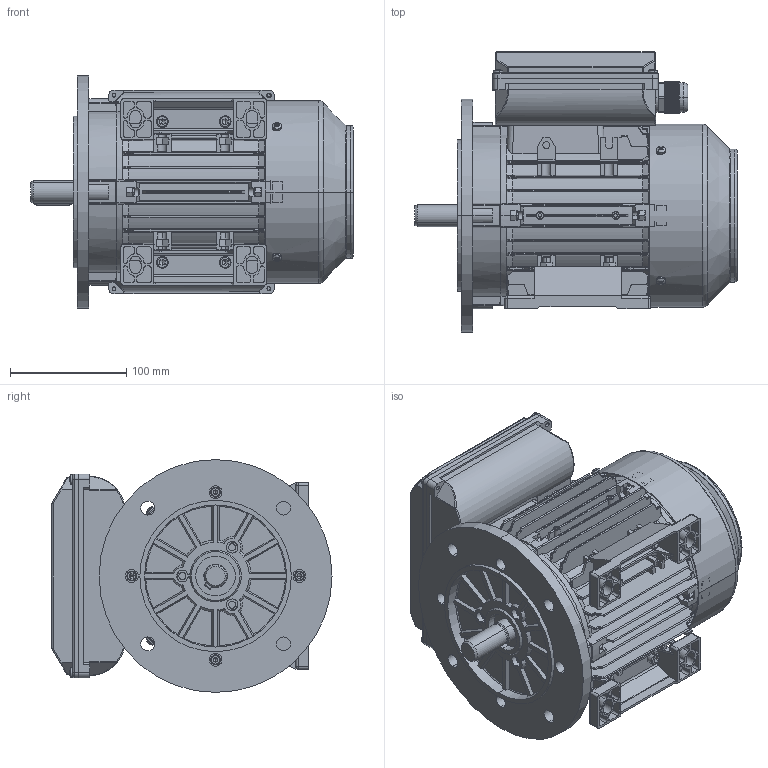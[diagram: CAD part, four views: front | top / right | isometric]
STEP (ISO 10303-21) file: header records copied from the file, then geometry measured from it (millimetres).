
FILE_DESCRIPTION (( 'STEP AP203' ), '1' );
FILE_NAME ('ML2 80 B35(臏諉盄碟).STEP', '2024-01-22T07:38:11', ( '' ), ( '' ), 'SwSTEP 2.0', 'SolidWorks 2016', '' );
FILE_SCHEMA (( 'CONFIG_CONTROL_DESIGN' ));
Length unit declared in the file: millimetre
Products named in the file (19): ML80-90铝接线盒组合II（加长）; cross recessed thread forming screws gb_GB_CROSS_SCREWS_TYPE138 M4X12-N; ML80-ML90諉盄碟裔(樓酗)(臏II); hexagon socket head cap screws gb_GB_FASTENER_SCREWS_HSHCS M5X25-N; T80儂褲; hexagon socket head cap screws gb_GB_FASTENER_SCREWS_HSHCS M6X20-N; TA80 B5傷裔1; T80菁褐; ML80-ML90諉盄碟釱(樓酗)(臏II); plain parallel keys_GB_CONNECTING_PIECE_KEYS_CSK 6X32; hexagon nuts grade c gb_GB_FASTENER_NUT_SNC1 M6-N; 80-100堤盄蹟杶; TA80蛌粣; ML2 80 B35(臏諉盄碟); hexagon nuts grade c gb_GB_FASTENER_NUT_SNC1 M5-N; TA80綴傷裔1; TA80瑞欶; 瑞珔; cross recessed thread forming screws gb_GB_CROSS_SCREWS_TYPE138 M4X8X6.6-N
Assembly tree (45 placements, depth 3):
  ML2 80 B35(臏諉盄碟)
    T80儂褲
    T80菁褐  x2
    TA80 B5傷裔1
    TA80瑞欶
    TA80蛌粣
    TA80綴傷裔1
    瑞珔
    hexagon socket head cap screws gb_GB_FASTENER_SCREWS_HSHCS M5X25-N  x8
    hexagon nuts grade c gb_GB_FASTENER_NUT_SNC1 M5-N  x8
    cross recessed thread forming screws gb_GB_CROSS_SCREWS_TYPE138 M4X12-N  x4
    plain parallel keys_GB_CONNECTING_PIECE_KEYS_CSK 6X32
    hexagon socket head cap screws gb_GB_FASTENER_SCREWS_HSHCS M6X20-N  x4
    hexagon nuts grade c gb_GB_FASTENER_NUT_SNC1 M6-N  x4
    ML80-90铝接线盒组合II（加长）
      ML80-ML90諉盄碟釱(樓酗)(臏II)
      ML80-ML90諉盄碟裔(樓酗)(臏II)
      cross recessed thread forming screws gb_GB_CROSS_SCREWS_TYPE138 M4X8X6.6-N  x4
      80-100堤盄蹟杶
Bounding box: 277 x 240.5 x 200 mm (x, y, z)
Volume: 1114137.8 mm3; surface area: 759359.3 mm2
Topology: 44 solids, 44 shells, 4322 faces, 11264 edges, 7095 vertices
Faces by surface type: plane 2328, cylinder 1128, cone 325, bspline 230, torus 179, sphere 132
Entity records: 123933 total; most frequent: CARTESIAN_POINT 34024, ORIENTED_EDGE 19054, DIRECTION 17083, EDGE_CURVE 9527, VERTEX_POINT 6047, AXIS2_PLACEMENT_3D 5843, LINE 5397, VECTOR 5397
